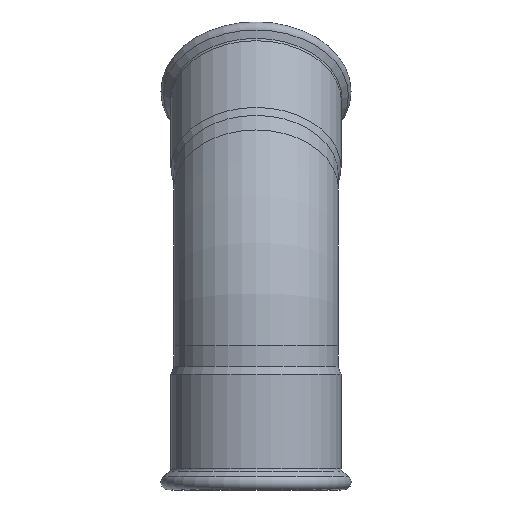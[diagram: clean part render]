
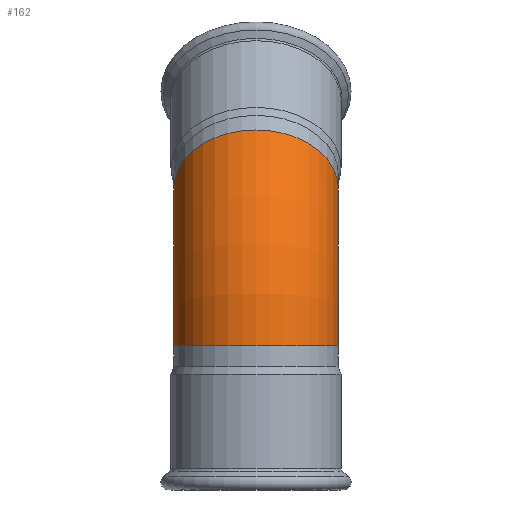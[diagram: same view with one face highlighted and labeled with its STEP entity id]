
A CAD part, left-side view. The second image highlights one B-rep face of the part: STEP entity #162.
In plain terms, the highlighted toroidal (fillet/blend) face has major radius 229 mm and minor radius 84.15 mm.
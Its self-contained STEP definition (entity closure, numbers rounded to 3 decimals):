
#135=CARTESIAN_POINT('',(229.,0.0,0.0));
#136=DIRECTION('',(0.0,1.0,0.0));
#137=DIRECTION('',(0.0,0.0,1.0));
#138=AXIS2_PLACEMENT_3D('',#135,#136,#137);
#139=TOROIDAL_SURFACE('',#138,229.,84.15);
#140=CARTESIAN_POINT('',(126.576,0.,102.424));
#141=VERTEX_POINT('',#140);
#142=CARTESIAN_POINT('',(67.073,0.0,161.927));
#143=DIRECTION('',(-0.707,0.0,-0.707));
#144=DIRECTION('',(-0.707,0.0,0.707));
#145=AXIS2_PLACEMENT_3D('',#142,#143,#144);
#146=CIRCLE('',#145,84.15);
#147=EDGE_CURVE('',#141,#141,#146,.T.);
#148=ORIENTED_EDGE('',*,*,#147,.T.);
#149=EDGE_LOOP('',(#148));
#150=FACE_OUTER_BOUND('',#149,.T.);
#151=CARTESIAN_POINT('',(84.15,0.,0.0));
#152=VERTEX_POINT('',#151);
#153=CARTESIAN_POINT('',(0.0,0.0,0.0));
#154=DIRECTION('',(0.0,0.0,-1.0));
#155=DIRECTION('',(-1.0,0.0,0.0));
#156=AXIS2_PLACEMENT_3D('',#153,#154,#155);
#157=CIRCLE('',#156,84.15);
#158=EDGE_CURVE('',#152,#152,#157,.T.);
#159=ORIENTED_EDGE('',*,*,#158,.F.);
#160=EDGE_LOOP('',(#159));
#161=FACE_BOUND('',#160,.T.);
#162=ADVANCED_FACE('',(#150,#161),#139,.T.);
